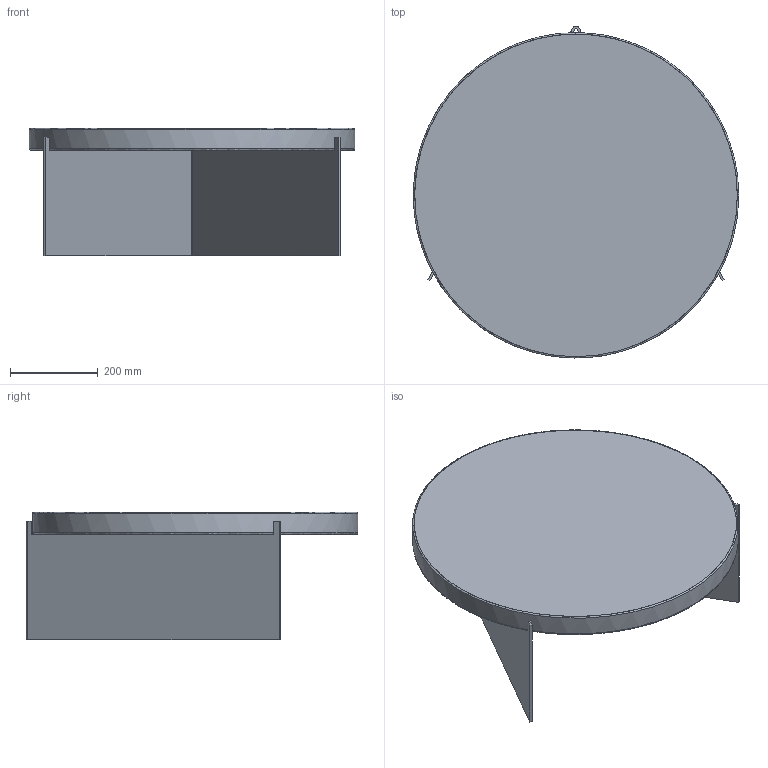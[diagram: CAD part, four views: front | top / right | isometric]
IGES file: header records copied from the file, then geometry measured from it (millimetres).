
Global section: file name: /Volumes/Team/Clients/Pulpo/2016 Alwa/Data Export/Pulpo Alwa One Super Big.igs; native system: Rhinoceros ( Nov 10 2020 ); preprocessor: Trout Lake IGES 012 Nov 10 2020; date: 240305.131520; units: millimetre
Bounding box: 739.91 x 755.17 x 290 mm (x, y, z)
Surface area: 1630323.4 mm2 (no closed solid volume)
Topology: 0 solids, 0 shells, 27 faces, 270 edges, 266 vertices
Faces by surface type: bspline 27
